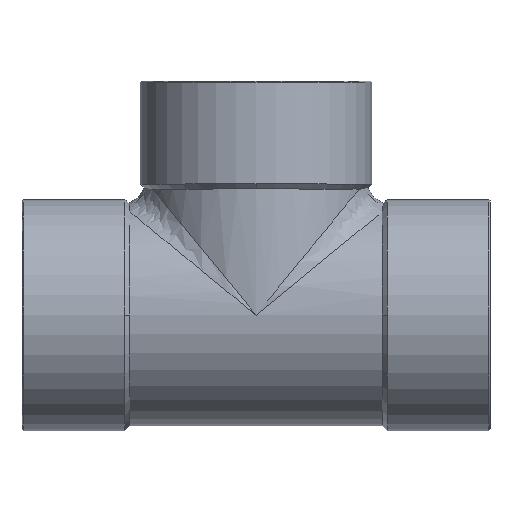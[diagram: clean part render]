
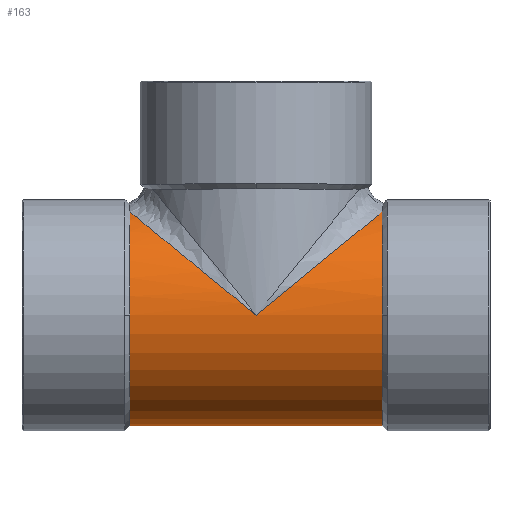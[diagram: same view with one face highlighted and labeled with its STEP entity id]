
A CAD part, top view. The second image highlights one B-rep face of the part: STEP entity #163.
In plain terms, the highlighted cylindrical face has radius 54.05 mm (diameter 108.1 mm), a partial arc.
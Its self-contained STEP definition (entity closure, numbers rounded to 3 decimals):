
#77=CARTESIAN_POINT('',(61.55,0.,54.05));
#78=VERTEX_POINT('',#77);
#85=CARTESIAN_POINT('',(61.55,-54.05,0.));
#86=VERTEX_POINT('',#85);
#87=CARTESIAN_POINT('',(61.55,0.,0.0));
#88=DIRECTION('',(-1.0,0.0,0.0));
#89=DIRECTION('',(0.0,1.0,0.0));
#90=AXIS2_PLACEMENT_3D('',#87,#88,#89);
#91=CIRCLE('',#90,54.05);
#92=EDGE_CURVE('',#86,#78,#91,.T.);
#104=CARTESIAN_POINT('',(0.,0.,0.0));
#105=DIRECTION('',(1.0,0.,0.0));
#106=DIRECTION('',(0.0,1.0,0.0));
#107=AXIS2_PLACEMENT_3D('',#104,#105,#106);
#108=CYLINDRICAL_SURFACE('',#107,54.05);
#109=CARTESIAN_POINT('',(-61.55,-54.05,0.));
#110=VERTEX_POINT('',#109);
#111=CARTESIAN_POINT('',(61.55,-54.05,0.));
#112=DIRECTION('',(-1.0,0.0,0.0));
#113=VECTOR('',#112,123.1);
#114=LINE('',#111,#113);
#115=EDGE_CURVE('',#86,#110,#114,.T.);
#116=ORIENTED_EDGE('',*,*,#115,.F.);
#117=ORIENTED_EDGE('',*,*,#92,.T.);
#118=CARTESIAN_POINT('',(61.55,50.368,19.609));
#119=VERTEX_POINT('',#118);
#120=CARTESIAN_POINT('',(61.55,0.,0.0));
#121=DIRECTION('',(-1.0,0.0,0.0));
#122=DIRECTION('',(0.0,1.0,0.0));
#123=AXIS2_PLACEMENT_3D('',#120,#121,#122);
#124=CIRCLE('',#123,54.05);
#125=EDGE_CURVE('',#78,#119,#124,.T.);
#126=ORIENTED_EDGE('',*,*,#125,.T.);
#127=CARTESIAN_POINT('',(0.,0.,54.05));
#128=VERTEX_POINT('',#127);
#129=CARTESIAN_POINT('',(0.0,0.0,0.0));
#130=DIRECTION('',(-0.633,0.774,0.));
#131=DIRECTION('',(0.774,0.633,0.0));
#132=AXIS2_PLACEMENT_3D('',#129,#130,#131);
#133=ELLIPSE('',#132,85.346,54.05);
#134=EDGE_CURVE('',#128,#119,#133,.T.);
#135=ORIENTED_EDGE('',*,*,#134,.F.);
#136=CARTESIAN_POINT('',(-61.55,50.368,19.609));
#137=VERTEX_POINT('',#136);
#138=CARTESIAN_POINT('',(0.0,0.0,0.0));
#139=DIRECTION('',(0.633,0.774,0.));
#140=DIRECTION('',(-0.774,0.633,0.0));
#141=AXIS2_PLACEMENT_3D('',#138,#139,#140);
#142=ELLIPSE('',#141,85.346,54.05);
#143=EDGE_CURVE('',#137,#128,#142,.T.);
#144=ORIENTED_EDGE('',*,*,#143,.F.);
#145=CARTESIAN_POINT('',(-61.55,0.,54.05));
#146=VERTEX_POINT('',#145);
#147=CARTESIAN_POINT('',(-61.55,0.,0.0));
#148=DIRECTION('',(1.0,0.0,0.0));
#149=DIRECTION('',(0.0,1.0,0.0));
#150=AXIS2_PLACEMENT_3D('',#147,#148,#149);
#151=CIRCLE('',#150,54.05);
#152=EDGE_CURVE('',#137,#146,#151,.T.);
#153=ORIENTED_EDGE('',*,*,#152,.T.);
#154=CARTESIAN_POINT('',(-61.55,0.,0.0));
#155=DIRECTION('',(1.0,0.0,0.0));
#156=DIRECTION('',(0.0,1.0,0.0));
#157=AXIS2_PLACEMENT_3D('',#154,#155,#156);
#158=CIRCLE('',#157,54.05);
#159=EDGE_CURVE('',#146,#110,#158,.T.);
#160=ORIENTED_EDGE('',*,*,#159,.T.);
#161=EDGE_LOOP('',(#116,#117,#126,#135,#144,#153,#160));
#162=FACE_OUTER_BOUND('',#161,.T.);
#163=ADVANCED_FACE('',(#162),#108,.T.);
